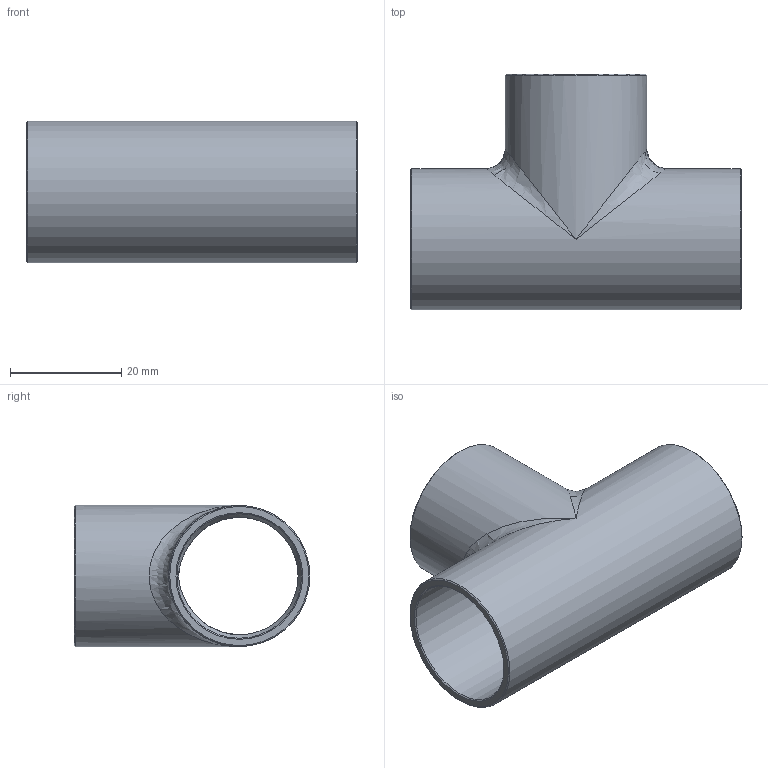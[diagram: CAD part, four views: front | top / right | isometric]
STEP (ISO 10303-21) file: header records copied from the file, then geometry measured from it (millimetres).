
FILE_DESCRIPTION((''),'2;1');
FILE_NAME('G:\SANHA-Ternat\Technik\Management\Bouwmaten + markeringen\z-maattekeningen 3D\29000s\2913078_3d.stp','2017-07-26T15:49:55',('vdvijverd'),(''),'Autodesk Inventor 2009','Autodesk Inventor 2009','');
FILE_SCHEMA(('AUTOMOTIVE_DESIGN { 1 0 10303 214 1 1 1 1 }'));
Length unit declared in the file: millimetre
Products named in the file (1): 2913078_3d
Bounding box: 59.4 x 42.4 x 25.4 mm (x, y, z)
Volume: 9450.5 mm3; surface area: 11279.7 mm2
Topology: 1 solids, 1 shells, 24 faces, 70 edges, 39 vertices
Faces by surface type: cone 8, cylinder 7, bspline 6, plane 3
Full cylindrical faces by diameter (mm): 22.375 x2, 25.4 x2
Entity records: 1514 total; most frequent: CARTESIAN_POINT 989, DIRECTION 112, ORIENTED_EDGE 82, AXIS2_PLACEMENT_3D 56, EDGE_LOOP 42, EDGE_CURVE 41, VERTEX_POINT 33, FACE_OUTER_BOUND 24
